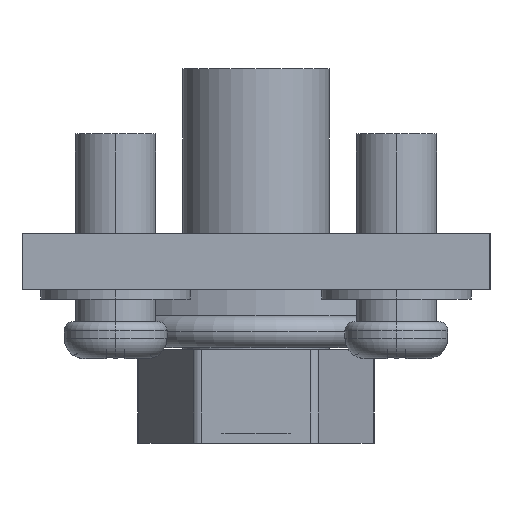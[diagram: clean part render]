
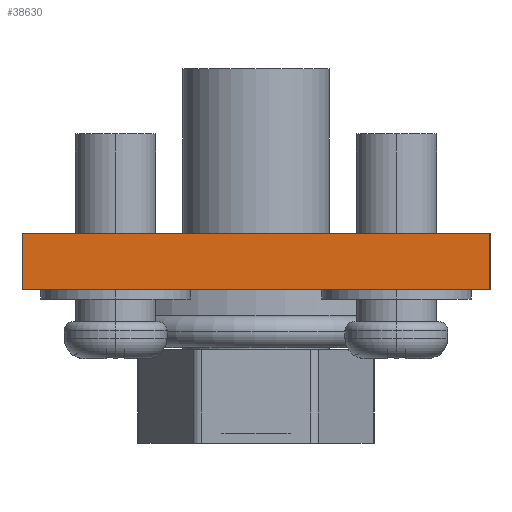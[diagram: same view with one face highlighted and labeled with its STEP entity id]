
A CAD part, left-side view. The second image highlights one B-rep face of the part: STEP entity #38630.
In plain terms, the highlighted planar face has unit normal (-1, 0, 0).
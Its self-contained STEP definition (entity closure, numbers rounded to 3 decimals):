
#33580=CARTESIAN_POINT('',(23.512,66.46,0.));
#33590=DIRECTION('',(0.,-1.,0.));
#33600=VECTOR('',#33590,1.);
#33610=LINE('',#33580,#33600);
#33620=CARTESIAN_POINT('',(23.512,66.46,0.));
#33630=VERTEX_POINT('',#33620);
#33640=CARTESIAN_POINT('',(23.512,41.46,0.));
#33650=VERTEX_POINT('',#33640);
#33660=EDGE_CURVE('',#33630,#33650,#33610,.T.);
#37850=CARTESIAN_POINT('',(23.512,66.46,3.));
#37860=VERTEX_POINT('',#37850);
#37890=CARTESIAN_POINT('',(23.512,66.46,3.));
#37900=DIRECTION('',(0.,0.,-1.));
#37910=VECTOR('',#37900,1.);
#37920=LINE('',#37890,#37910);
#37930=EDGE_CURVE('',#37860,#33630,#37920,.T.);
#38280=CARTESIAN_POINT('',(23.512,41.46,3.));
#38290=DIRECTION('',(0.,0.,-1.));
#38300=VECTOR('',#38290,1.);
#38310=LINE('',#38280,#38300);
#38320=CARTESIAN_POINT('',(23.512,41.46,3.));
#38330=VERTEX_POINT('',#38320);
#38340=EDGE_CURVE('',#38330,#33650,#38310,.T.);
#38470=CARTESIAN_POINT('',(23.512,41.46,-0.));
#38480=DIRECTION('',(-1.,-0.,-0.));
#38490=DIRECTION('',(0.,1.,0.));
#38500=AXIS2_PLACEMENT_3D('',#38470,#38480,#38490);
#38510=PLANE('',#38500);
#38520=ORIENTED_EDGE('',*,*,#37930,.T.);
#38530=CARTESIAN_POINT('',(23.512,66.46,3.));
#38540=DIRECTION('',(0.,-1.,0.));
#38550=VECTOR('',#38540,1.);
#38560=LINE('',#38530,#38550);
#38570=EDGE_CURVE('',#37860,#38330,#38560,.T.);
#38580=ORIENTED_EDGE('',*,*,#38570,.F.);
#38590=ORIENTED_EDGE('',*,*,#38340,.F.);
#38600=ORIENTED_EDGE('',*,*,#33660,.T.);
#38610=EDGE_LOOP('',(#38600,#38590,#38580,#38520));
#38620=FACE_OUTER_BOUND('',#38610,.T.);
#38630=ADVANCED_FACE('',(#38620),#38510,.T.);
